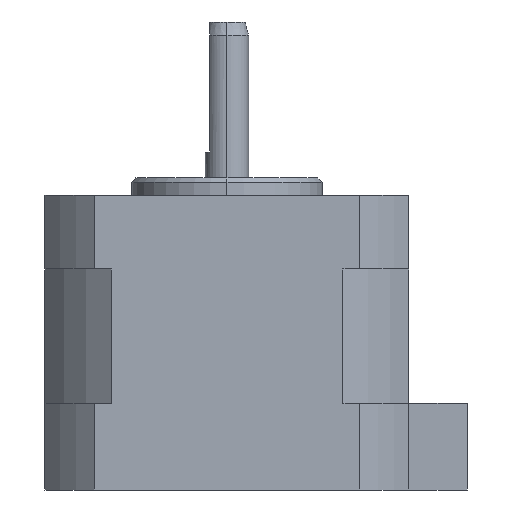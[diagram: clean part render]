
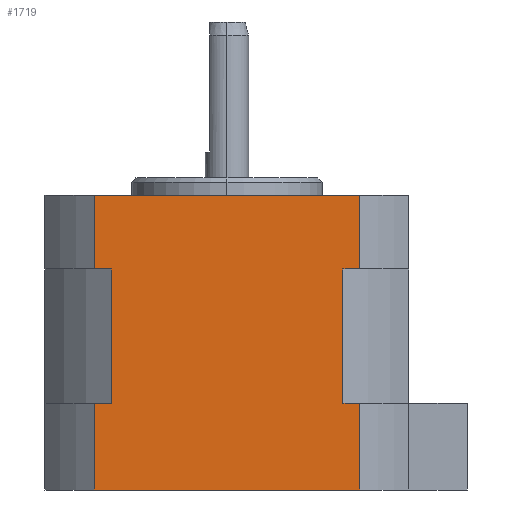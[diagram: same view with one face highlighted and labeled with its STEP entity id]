
A CAD part, left-side view. The second image highlights one B-rep face of the part: STEP entity #1719.
In plain terms, the highlighted planar face has unit normal (-1, 0, 0).
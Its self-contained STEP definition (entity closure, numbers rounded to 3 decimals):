
#25 = EDGE_CURVE ( 'NONE', #426, #799, #755, .T. ) ;
#33 = EDGE_CURVE ( 'NONE', #1470, #832, #1491, .T. ) ;
#37 = DIRECTION ( 'NONE',  ( 0., 0., 1. ) ) ;
#134 = LINE ( 'NONE', #1776, #1395 ) ;
#143 = EDGE_CURVE ( 'NONE', #943, #780, #1625, .T. ) ;
#146 = VERTEX_POINT ( 'NONE', #365 ) ;
#157 = VECTOR ( 'NONE', #496, 1000. ) ;
#163 = ORIENTED_EDGE ( 'NONE', *, *, #33, .T. ) ;
#169 = DIRECTION ( 'NONE',  ( 0., 0., 1. ) ) ;
#196 = ORIENTED_EDGE ( 'NONE', *, *, #218, .F. ) ;
#207 = ORIENTED_EDGE ( 'NONE', *, *, #740, .F. ) ;
#218 = EDGE_CURVE ( 'NONE', #690, #918, #536, .T. ) ;
#226 = CARTESIAN_POINT ( 'NONE',  ( -21., 13.379, -26. ) ) ;
#233 = DIRECTION ( 'NONE',  ( 0., 1., 0. ) ) ;
#238 = ORIENTED_EDGE ( 'NONE', *, *, #862, .F. ) ;
#295 = LINE ( 'NONE', #947, #1236 ) ;
#299 = EDGE_CURVE ( 'NONE', #579, #780, #295, .T. ) ;
#306 = DIRECTION ( 'NONE',  ( 0., 1., 0. ) ) ;
#320 = CARTESIAN_POINT ( 'NONE',  ( -21., 15.33, -2. ) ) ;
#343 = ORIENTED_EDGE ( 'NONE', *, *, #25, .T. ) ;
#346 = CARTESIAN_POINT ( 'NONE',  ( -21., 13.379, -26. ) ) ;
#359 = LINE ( 'NONE', #547, #813 ) ;
#365 = CARTESIAN_POINT ( 'NONE',  ( -21., 15.33, -10.5 ) ) ;
#367 = CARTESIAN_POINT ( 'NONE',  ( -21., 13.379, -10.5 ) ) ;
#390 = VECTOR ( 'NONE', #1115, 1000. ) ;
#426 = VERTEX_POINT ( 'NONE', #1773 ) ;
#428 = CARTESIAN_POINT ( 'NONE',  ( -21., -15.33, -36. ) ) ;
#455 = EDGE_CURVE ( 'NONE', #690, #1418, #647, .T. ) ;
#468 = VECTOR ( 'NONE', #959, 1000. ) ;
#496 = DIRECTION ( 'NONE',  ( 0., 0., 1. ) ) ;
#502 = LINE ( 'NONE', #1618, #1087 ) ;
#503 = AXIS2_PLACEMENT_3D ( 'NONE', #1090, #910, #717 ) ;
#518 = VECTOR ( 'NONE', #1447, 1000. ) ;
#536 = LINE ( 'NONE', #346, #157 ) ;
#539 = ORIENTED_EDGE ( 'NONE', *, *, #143, .T. ) ;
#547 = CARTESIAN_POINT ( 'NONE',  ( -21., 15.33, -36. ) ) ;
#579 = VERTEX_POINT ( 'NONE', #1166 ) ;
#604 = EDGE_CURVE ( 'NONE', #832, #943, #1807, .T. ) ;
#605 = FACE_OUTER_BOUND ( 'NONE', #1376, .T. ) ;
#625 = CARTESIAN_POINT ( 'NONE',  ( -21., 15.33, -26. ) ) ;
#634 = LINE ( 'NONE', #428, #927 ) ;
#637 = CARTESIAN_POINT ( 'NONE',  ( -21., -15.33, -36. ) ) ;
#643 = VECTOR ( 'NONE', #37, 1000. ) ;
#647 = LINE ( 'NONE', #777, #468 ) ;
#690 = VERTEX_POINT ( 'NONE', #226 ) ;
#696 = CARTESIAN_POINT ( 'NONE',  ( -21., -15.33, -26. ) ) ;
#699 = ORIENTED_EDGE ( 'NONE', *, *, #1028, .F. ) ;
#715 = ORIENTED_EDGE ( 'NONE', *, *, #604, .T. ) ;
#717 = DIRECTION ( 'NONE',  ( 0., 1., 0. ) ) ;
#735 = DIRECTION ( 'NONE',  ( 0., 0., 1. ) ) ;
#740 = EDGE_CURVE ( 'NONE', #426, #579, #134, .T. ) ;
#755 = LINE ( 'NONE', #937, #390 ) ;
#767 = DIRECTION ( 'NONE',  ( 0., 1., 0. ) ) ;
#770 = CARTESIAN_POINT ( 'NONE',  ( -21., -13.379, -10.5 ) ) ;
#777 = CARTESIAN_POINT ( 'NONE',  ( -21., 13.379, -26. ) ) ;
#780 = VERTEX_POINT ( 'NONE', #770 ) ;
#790 = CARTESIAN_POINT ( 'NONE',  ( -21., -13.379, -26. ) ) ;
#799 = VERTEX_POINT ( 'NONE', #320 ) ;
#813 = VECTOR ( 'NONE', #735, 1000. ) ;
#832 = VERTEX_POINT ( 'NONE', #696 ) ;
#862 = EDGE_CURVE ( 'NONE', #918, #146, #502, .T. ) ;
#899 = DIRECTION ( 'NONE',  ( 0., 0., 1. ) ) ;
#910 = DIRECTION ( 'NONE',  ( 1., 0., 0. ) ) ;
#918 = VERTEX_POINT ( 'NONE', #367 ) ;
#927 = VECTOR ( 'NONE', #233, 1000. ) ;
#937 = CARTESIAN_POINT ( 'NONE',  ( -21., 21., -2. ) ) ;
#943 = VERTEX_POINT ( 'NONE', #790 ) ;
#947 = CARTESIAN_POINT ( 'NONE',  ( -21., 21., -10.5 ) ) ;
#959 = DIRECTION ( 'NONE',  ( 0., 1., 0. ) ) ;
#1028 = EDGE_CURVE ( 'NONE', #146, #799, #359, .T. ) ;
#1080 = CARTESIAN_POINT ( 'NONE',  ( -21., 15.33, -36. ) ) ;
#1087 = VECTOR ( 'NONE', #306, 1000. ) ;
#1090 = CARTESIAN_POINT ( 'NONE',  ( -21., 21., -10.5 ) ) ;
#1115 = DIRECTION ( 'NONE',  ( 0., 1., 0. ) ) ;
#1166 = CARTESIAN_POINT ( 'NONE',  ( -21., -15.33, -10.5 ) ) ;
#1236 = VECTOR ( 'NONE', #767, 1000. ) ;
#1271 = PLANE ( 'NONE',  #503 ) ;
#1274 = ORIENTED_EDGE ( 'NONE', *, *, #1702, .F. ) ;
#1297 = VECTOR ( 'NONE', #899, 1000. ) ;
#1376 = EDGE_LOOP ( 'NONE', ( #699, #238, #196, #1467, #1734, #1274, #163, #715, #539, #1640, #207, #343 ) ) ;
#1395 = VECTOR ( 'NONE', #1598, 1000. ) ;
#1418 = VERTEX_POINT ( 'NONE', #625 ) ;
#1447 = DIRECTION ( 'NONE',  ( 0., 1., 0. ) ) ;
#1467 = ORIENTED_EDGE ( 'NONE', *, *, #455, .T. ) ;
#1470 = VERTEX_POINT ( 'NONE', #637 ) ;
#1477 = CARTESIAN_POINT ( 'NONE',  ( -21., 15.33, -36. ) ) ;
#1491 = LINE ( 'NONE', #1669, #643 ) ;
#1497 = VERTEX_POINT ( 'NONE', #1477 ) ;
#1598 = DIRECTION ( 'NONE',  ( 0., 0., -1. ) ) ;
#1603 = VECTOR ( 'NONE', #169, 1000. ) ;
#1615 = EDGE_CURVE ( 'NONE', #1497, #1418, #1812, .T. ) ;
#1618 = CARTESIAN_POINT ( 'NONE',  ( -21., 21., -10.5 ) ) ;
#1625 = LINE ( 'NONE', #1802, #1603 ) ;
#1630 = CARTESIAN_POINT ( 'NONE',  ( -21., 13.379, -26. ) ) ;
#1640 = ORIENTED_EDGE ( 'NONE', *, *, #299, .F. ) ;
#1669 = CARTESIAN_POINT ( 'NONE',  ( -21., -15.33, -36. ) ) ;
#1702 = EDGE_CURVE ( 'NONE', #1470, #1497, #634, .T. ) ;
#1719 = ADVANCED_FACE ( 'NONE', ( #605 ), #1271, .F. ) ;
#1734 = ORIENTED_EDGE ( 'NONE', *, *, #1615, .F. ) ;
#1773 = CARTESIAN_POINT ( 'NONE',  ( -21., -15.33, -2. ) ) ;
#1776 = CARTESIAN_POINT ( 'NONE',  ( -21., -15.33, -36. ) ) ;
#1802 = CARTESIAN_POINT ( 'NONE',  ( -21., -13.379, -26. ) ) ;
#1807 = LINE ( 'NONE', #1630, #518 ) ;
#1812 = LINE ( 'NONE', #1080, #1297 ) ;
